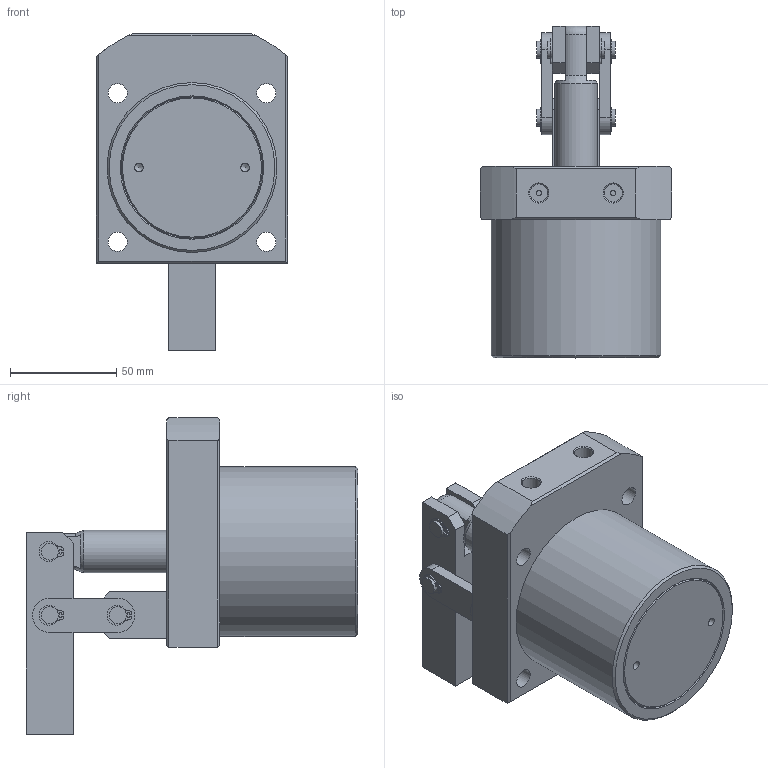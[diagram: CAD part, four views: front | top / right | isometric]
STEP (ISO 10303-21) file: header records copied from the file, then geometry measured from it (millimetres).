
FILE_DESCRIPTION(/* description */ (''),/* implementation_level */ '2;1');
FILE_NAME(/* name */ 'KGG-SG63.stp',/* time_stamp */ '2016-07-19T14:43:56+08:00',/* author */ (''),/* organization */ (''),/* preprocessor_version */ 'ST-DEVELOPER v14',/* originating_system */ 'SIEMENS PLM Software NX 8.0',/* authorisation */ '');
FILE_SCHEMA (('CONFIG_CONTROL_DESIGN'));
Length unit declared in the file: millimetre
Products named in the file (1): KGG-SG63_stp
Bounding box: 90 x 156.2 x 149 mm (x, y, z)
Volume: 636510.5 mm3; surface area: 71067.1 mm2
Topology: 14 solids, 14 shells, 211 faces, 491 edges, 326 vertices
Faces by surface type: plane 118, cylinder 80, cone 12, torus 1
Full cylindrical faces by diameter (mm): 2.5 x2, 4 x2, 8 x6, 8.5 x2, 9 x4, 14 x4, 20 x2, 23.4 x1, 80 x1
Entity records: 5854 total; most frequent: DIRECTION 1042, CARTESIAN_POINT 1004, ORIENTED_EDGE 882, EDGE_CURVE 441, AXIS2_PLACEMENT_3D 395, VERTEX_POINT 313, EDGE_LOOP 274, LINE 252
